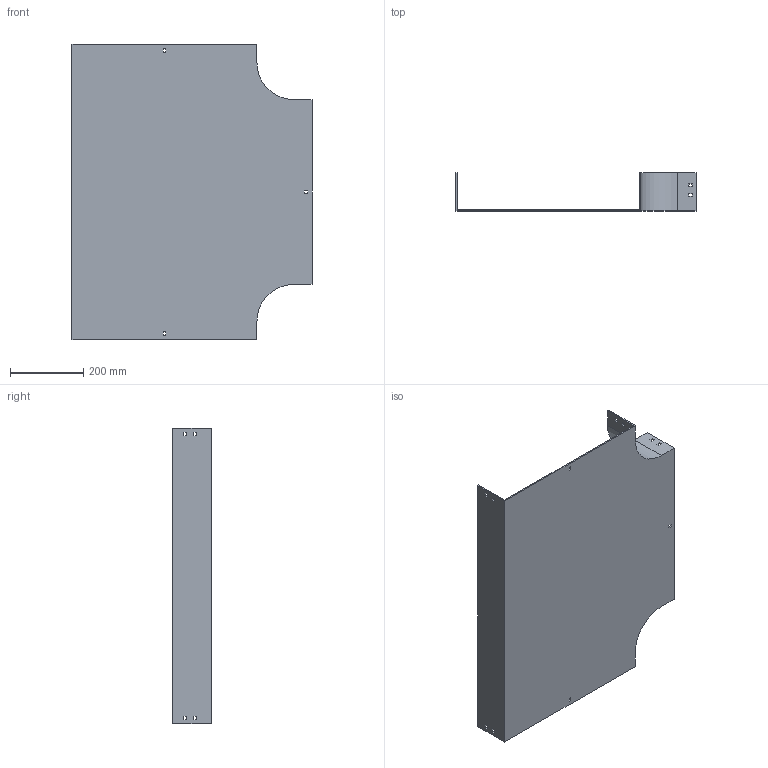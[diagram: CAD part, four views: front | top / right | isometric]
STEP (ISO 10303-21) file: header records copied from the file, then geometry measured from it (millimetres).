
FILE_DESCRIPTION (( 'STEP AP214' ), '1' );
FILE_NAME ('15B1D500.step', '2025-02-21T09:53:26', ( '' ), ( '' ), 'SwSTEP 2.0', 'SolidWorks 2023', '' );
FILE_SCHEMA (( 'AUTOMOTIVE_DESIGN' ));
Length unit declared in the file: millimetre
Products named in the file (1): 15B1D500
Bounding box: 654 x 104 x 804 mm (x, y, z)
Volume: 2159920.2 mm3; surface area: 1248009.7 mm2
Topology: 1 solids, 1 shells, 82 faces, 240 edges, 160 vertices
Faces by surface type: plane 78, cylinder 4
Entity records: 2755 total; most frequent: CARTESIAN_POINT 483, ORIENTED_EDGE 480, DIRECTION 414, EDGE_CURVE 240, VECTOR 232, LINE 232, VERTEX_POINT 160, EDGE_LOOP 112
